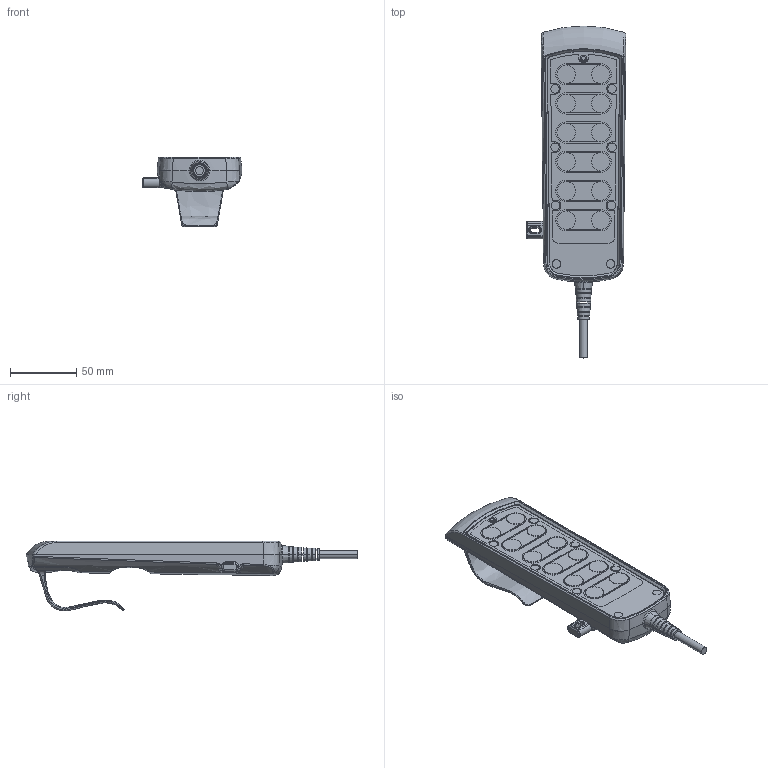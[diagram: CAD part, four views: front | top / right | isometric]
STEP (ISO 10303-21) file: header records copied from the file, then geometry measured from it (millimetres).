
FILE_DESCRIPTION (( 'STEP AP203' ), '1' );
FILE_NAME ('TH12.STEP', '2014-01-16T03:49:37', ( 'stanley' ), ( '' ), 'SwSTEP 2.0', 'SolidWorks 2010', '' );
FILE_SCHEMA (( 'CONFIG_CONTROL_DESIGN' ));
Length unit declared in the file: millimetre
Products named in the file (1): TH12
Bounding box: 75.26 x 250.28 x 52.33 mm (x, y, z)
Surface area: 67499.3 mm2 (no closed solid volume)
Topology: 0 solids, 6 shells, 430 faces, 1249 edges, 812 vertices
Faces by surface type: bspline 151, plane 129, cylinder 75, cone 39, torus 35, sphere 1
Entity records: 33267 total; most frequent: CARTESIAN_POINT 22819, ORIENTED_EDGE 2204, DIRECTION 1921, EDGE_CURVE 1245, VERTEX_POINT 812, AXIS2_PLACEMENT_3D 772, CIRCLE 492, EDGE_LOOP 466
